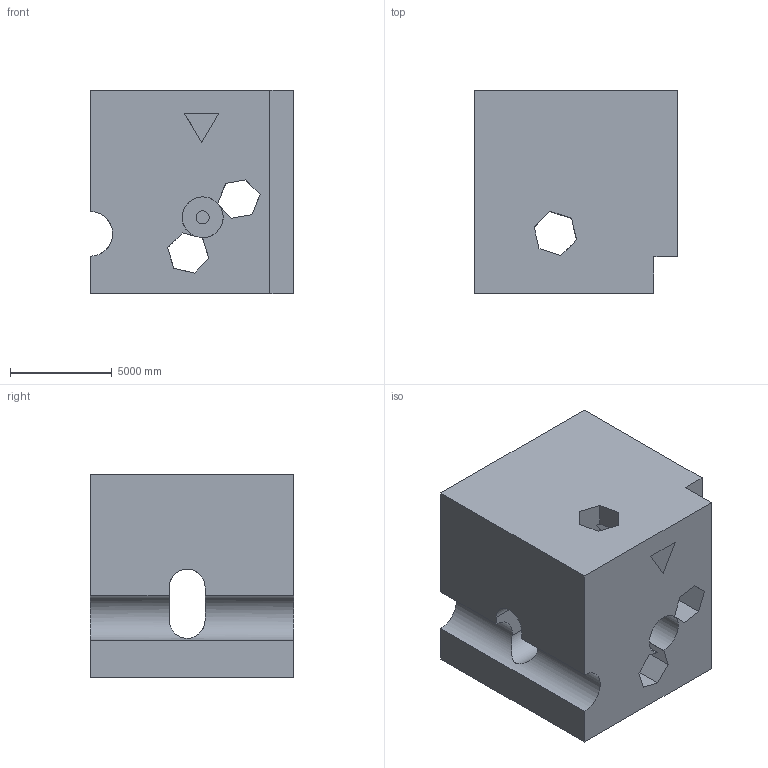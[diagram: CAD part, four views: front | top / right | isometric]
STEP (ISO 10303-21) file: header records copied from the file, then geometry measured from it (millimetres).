
FILE_DESCRIPTION (( 'STEP AP203' ), '1' );
FILE_NAME ('194.STEP', '2022-08-31T14:36:55', ( 'user' ), ( '' ), 'SwSTEP 2.0', 'SolidWorks 2021', '' );
FILE_SCHEMA (( 'CONFIG_CONTROL_DESIGN' ));
Length unit declared in the file: centimetre
Products named in the file (1): 194
Bounding box: 10000 x 10000 x 10000 mm (x, y, z)
Volume: 790829211260.9 mm3; surface area: 899887750.7 mm2
Topology: 1 solids, 1 shells, 81 faces, 261 edges, 174 vertices
Faces by surface type: plane 65, cylinder 16
Entity records: 3270 total; most frequent: CARTESIAN_POINT 917, ORIENTED_EDGE 522, DIRECTION 420, EDGE_CURVE 261, VECTOR 206, LINE 206, VERTEX_POINT 174, AXIS2_PLACEMENT_3D 107
